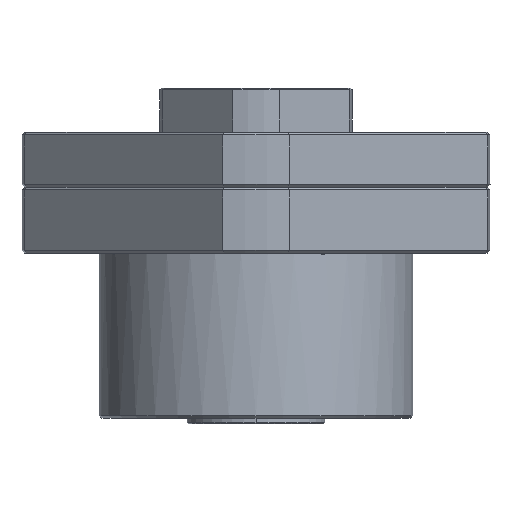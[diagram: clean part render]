
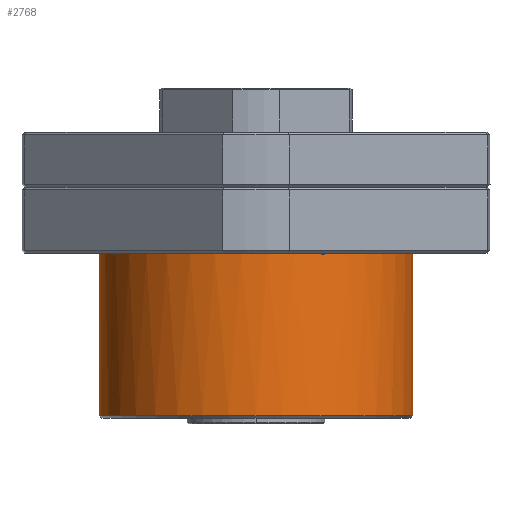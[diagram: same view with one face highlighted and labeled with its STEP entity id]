
A CAD part, left-side view. The second image highlights one B-rep face of the part: STEP entity #2768.
In plain terms, the highlighted cylindrical face has radius 28.5 mm (diameter 57 mm), a partial arc.
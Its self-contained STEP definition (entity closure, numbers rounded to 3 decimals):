
#174 = CARTESIAN_POINT ( 'NONE',  ( -12.653, 25.537, 9. ) ) ;
#178 = CARTESIAN_POINT ( 'NONE',  ( -12.526, 25.6, 8.932 ) ) ;
#179 = CARTESIAN_POINT ( 'NONE',  ( -12.396, 25.663, 8.868 ) ) ;
#180 = CARTESIAN_POINT ( 'NONE',  ( -12.188, 25.763, 8.81 ) ) ;
#181 = CARTESIAN_POINT ( 'NONE',  ( -12.117, 25.796, 8.798 ) ) ;
#182 = CARTESIAN_POINT ( 'NONE',  ( -11.975, 25.862, 8.798 ) ) ;
#183 = CARTESIAN_POINT ( 'NONE',  ( -11.903, 25.896, 8.81 ) ) ;
#184 = CARTESIAN_POINT ( 'NONE',  ( -11.833, 25.927, 8.829 ) ) ;
#185 = CARTESIAN_POINT ( 'NONE',  ( 0., 0., 9. ) ) ;
#186 = DIRECTION ( 'NONE',  ( 0., 0., -1. ) ) ;
#187 = DIRECTION ( 'NONE',  ( 0., -1., 0. ) ) ;
#188 = CARTESIAN_POINT ( 'NONE',  ( -25.537, -12.653, 9. ) ) ;
#189 = CARTESIAN_POINT ( 'NONE',  ( -25.585, -12.557, 8.949 ) ) ;
#190 = CARTESIAN_POINT ( 'NONE',  ( -25.632, -12.46, 8.901 ) ) ;
#191 = CARTESIAN_POINT ( 'NONE',  ( -25.73, -12.258, 8.825 ) ) ;
#192 = CARTESIAN_POINT ( 'NONE',  ( -25.78, -12.152, 8.798 ) ) ;
#193 = CARTESIAN_POINT ( 'NONE',  ( -25.88, -11.938, 8.798 ) ) ;
#194 = CARTESIAN_POINT ( 'NONE',  ( -25.929, -11.83, 8.825 ) ) ;
#195 = CARTESIAN_POINT ( 'NONE',  ( -26.021, -11.627, 8.901 ) ) ;
#196 = CARTESIAN_POINT ( 'NONE',  ( -26.065, -11.527, 8.949 ) ) ;
#197 = CARTESIAN_POINT ( 'NONE',  ( -26.108, -11.429, 9. ) ) ;
#198 = CARTESIAN_POINT ( 'NONE',  ( 0., 0., 9. ) ) ;
#199 = DIRECTION ( 'NONE',  ( 0., 0., -1. ) ) ;
#200 = DIRECTION ( 'NONE',  ( 0., -1., 0. ) ) ;
#201 = CARTESIAN_POINT ( 'NONE',  ( 0., 0., 9. ) ) ;
#202 = LINE ( 'NONE', #203, #5332 ) ;
#203 = CARTESIAN_POINT ( 'NONE',  ( 0., -28.5, -21. ) ) ;
#204 = DIRECTION ( 'NONE',  ( 0., 0., -1. ) ) ;
#205 = DIRECTION ( 'NONE',  ( 0., 0., -1. ) ) ;
#206 = DIRECTION ( 'NONE',  ( 0., -1., 0. ) ) ;
#208 = LINE ( 'NONE', #209, #5413 ) ;
#209 = CARTESIAN_POINT ( 'NONE',  ( 0., 28.5, -21. ) ) ;
#210 = DIRECTION ( 'NONE',  ( 0., 0., -1. ) ) ;
#377 = CARTESIAN_POINT ( 'NONE',  ( 0., 0., -20.5 ) ) ;
#384 = DIRECTION ( 'NONE',  ( 0., 0., 1. ) ) ;
#385 = DIRECTION ( 'NONE',  ( 0., 1., 0. ) ) ;
#401 = CARTESIAN_POINT ( 'NONE',  ( -11.833, 25.927, 8.829 ) ) ;
#405 = CARTESIAN_POINT ( 'NONE',  ( -11.694, 25.991, 8.867 ) ) ;
#406 = CARTESIAN_POINT ( 'NONE',  ( -11.56, 26.05, 8.932 ) ) ;
#407 = CARTESIAN_POINT ( 'NONE',  ( -11.429, 26.108, 9. ) ) ;
#877 = CARTESIAN_POINT ( 'NONE',  ( 0., 28.5, -20.5 ) ) ;
#883 = CARTESIAN_POINT ( 'NONE',  ( 0., -28.5, -20.5 ) ) ;
#887 = CARTESIAN_POINT ( 'NONE',  ( -12.653, 25.537, 9. ) ) ;
#891 = CARTESIAN_POINT ( 'NONE',  ( 0., 28.5, 9. ) ) ;
#940 = CARTESIAN_POINT ( 'NONE',  ( -25.537, -12.653, 9. ) ) ;
#983 = CARTESIAN_POINT ( 'NONE',  ( -26.108, -11.429, 9. ) ) ;
#1025 = CARTESIAN_POINT ( 'NONE',  ( 0., -28.5, 9. ) ) ;
#1142 = CARTESIAN_POINT ( 'NONE',  ( -11.833, 25.927, 8.829 ) ) ;
#1154 = CARTESIAN_POINT ( 'NONE',  ( -11.429, 26.108, 9. ) ) ;
#1960 = CARTESIAN_POINT ( 'NONE',  ( 0., 0., -21. ) ) ;
#1961 = DIRECTION ( 'NONE',  ( 0., 0., -1. ) ) ;
#1962 = DIRECTION ( 'NONE',  ( 0., -1., 0. ) ) ;
#2768 = ADVANCED_FACE ( 'NONE', ( #9273 ), #9423, .T. ) ;
#2948 = EDGE_CURVE ( 'NONE', #4473, #8049, #9938, .T. ) ;
#2949 = EDGE_CURVE ( 'NONE', #4812, #4473, #6107, .T. ) ;
#2950 = EDGE_CURVE ( 'NONE', #4660, #4812, #9902, .T. ) ;
#2951 = EDGE_CURVE ( 'NONE', #5018, #4660, #6108, .T. ) ;
#2952 = EDGE_CURVE ( 'NONE', #5018, #4468, #202, .T. ) ;
#2953 = EDGE_CURVE ( 'NONE', #8061, #4477, #6109, .T. ) ;
#2954 = EDGE_CURVE ( 'NONE', #4477, #4457, #208, .T. ) ;
#3012 = EDGE_CURVE ( 'NONE', #4457, #4468, #6138, .T. ) ;
#3019 = EDGE_CURVE ( 'NONE', #8049, #8061, #9933, .T. ) ;
#4457 = VERTEX_POINT ( 'NONE', #877 ) ;
#4468 = VERTEX_POINT ( 'NONE', #883 ) ;
#4473 = VERTEX_POINT ( 'NONE', #887 ) ;
#4477 = VERTEX_POINT ( 'NONE', #891 ) ;
#4660 = VERTEX_POINT ( 'NONE', #940 ) ;
#4669 = EDGE_LOOP ( 'NONE', ( #7794, #7791, #7792, #7790, #7788, #7789, #7787, #7786, #7785 ) ) ;
#4812 = VERTEX_POINT ( 'NONE', #983 ) ;
#5018 = VERTEX_POINT ( 'NONE', #1025 ) ;
#5177 = AXIS2_PLACEMENT_3D ( 'NONE', #185, #186, #187 ) ;
#5234 = AXIS2_PLACEMENT_3D ( 'NONE', #198, #199, #200 ) ;
#5332 = VECTOR ( 'NONE', #204, 1000. ) ;
#5400 = AXIS2_PLACEMENT_3D ( 'NONE', #377, #384, #385 ) ;
#5413 = VECTOR ( 'NONE', #210, 1000. ) ;
#5758 = AXIS2_PLACEMENT_3D ( 'NONE', #201, #205, #206 ) ;
#6107 = CIRCLE ( 'NONE', #5177, 28.5 ) ;
#6108 = CIRCLE ( 'NONE', #5234, 28.5 ) ;
#6109 = CIRCLE ( 'NONE', #5758, 28.5 ) ;
#6138 = CIRCLE ( 'NONE', #5400, 28.5 ) ;
#7785 = ORIENTED_EDGE ( 'NONE', *, *, #3019, .T. ) ;
#7786 = ORIENTED_EDGE ( 'NONE', *, *, #2948, .T. ) ;
#7787 = ORIENTED_EDGE ( 'NONE', *, *, #2949, .T. ) ;
#7788 = ORIENTED_EDGE ( 'NONE', *, *, #2951, .T. ) ;
#7789 = ORIENTED_EDGE ( 'NONE', *, *, #2950, .T. ) ;
#7790 = ORIENTED_EDGE ( 'NONE', *, *, #2952, .F. ) ;
#7791 = ORIENTED_EDGE ( 'NONE', *, *, #2954, .T. ) ;
#7792 = ORIENTED_EDGE ( 'NONE', *, *, #3012, .T. ) ;
#7794 = ORIENTED_EDGE ( 'NONE', *, *, #2953, .T. ) ;
#8049 = VERTEX_POINT ( 'NONE', #1142 ) ;
#8061 = VERTEX_POINT ( 'NONE', #1154 ) ;
#9273 = FACE_OUTER_BOUND ( 'NONE', #4669, .T. ) ;
#9376 = AXIS2_PLACEMENT_3D ( 'NONE', #1960, #1961, #1962 ) ;
#9423 = CYLINDRICAL_SURFACE ( 'NONE', #9376, 28.5 ) ;
#9902 = B_SPLINE_CURVE_WITH_KNOTS ( 'NONE', 3,
 ( #188, #189, #190, #191, #192, #193, #194, #195, #196, #197 ),
 .UNSPECIFIED., .F., .F.,
 ( 4, 2, 2, 2, 4 ),
 ( 0., 0., 0.001, 0.001, 0.001 ),
 .UNSPECIFIED. ) ;
#9933 = B_SPLINE_CURVE_WITH_KNOTS ( 'NONE', 3,
 ( #401, #405, #406, #407 ),
 .UNSPECIFIED., .F., .F.,
 ( 4, 4 ),
 ( 0.001, 0.001 ),
 .UNSPECIFIED. ) ;
#9938 = B_SPLINE_CURVE_WITH_KNOTS ( 'NONE', 3,
 ( #174, #178, #179, #180, #181, #182, #183, #184 ),
 .UNSPECIFIED., .F., .F.,
 ( 4, 2, 2, 4 ),
 ( 0., 0., 0.001, 0.001 ),
 .UNSPECIFIED. ) ;
